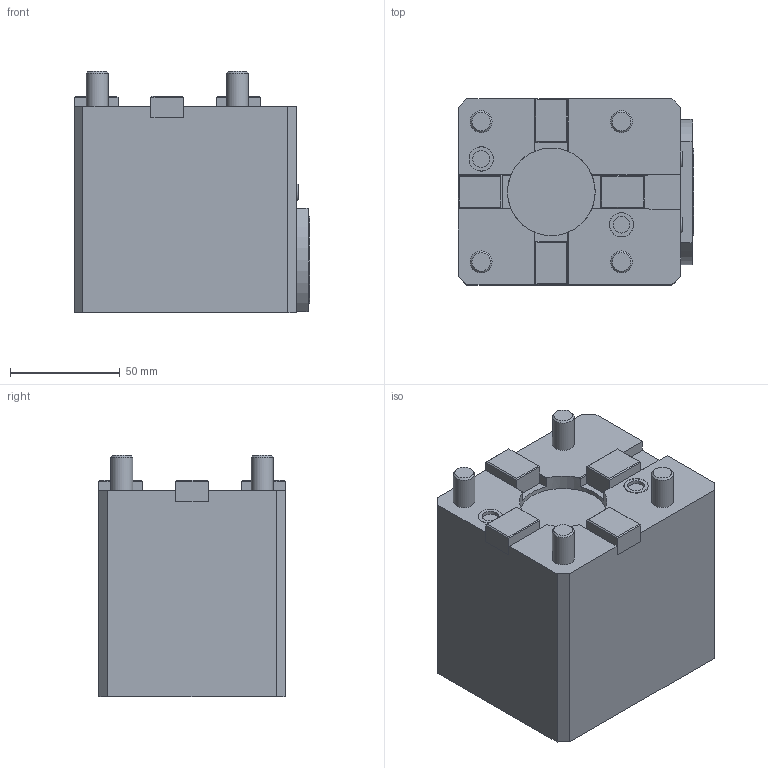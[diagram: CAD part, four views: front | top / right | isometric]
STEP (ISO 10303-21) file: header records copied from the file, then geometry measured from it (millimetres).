
FILE_DESCRIPTION(/* description */ (''),/* implementation_level */ '2;1');
FILE_NAME(/* name */ '198071',/* time_stamp */ '2022-01-04T10:34:12+01:00',/* author */ (''),/* organization */ (''),/* preprocessor_version */ 'ST-DEVELOPER v16.5',/* originating_system */ 'HiCAD 2017 2201.0 Build 268',/* authorisation */ '');
FILE_SCHEMA (('AUTOMOTIVE_DESIGN { 1 0 10303 214 1 1 1 1 }'));
Length unit declared in the file: millimetre
Products named in the file (37): Root; Leeres Teil; TRANSLATIONSTEIL_0; ROTATIONSTEIL_0; DIN 76-M12x1; ISO 4762-M 10x100-12.9_Zylinderkopfschraube ISO 4762-M 10x100-12.9; GEWINDE; 173501_Kantsealring 7.65x1.68_358*; ROTATIONSTEIL_0_210*; DIN 13-M12x1; KUGEL_0; DIN 13-M6; 114153_O-Ring 7x2_332*; Baugruppe Capto_Baugruppe; GEHÄUSE KOMBIHALTER_130*; SLEEVE_C4-STEHEND_120*
Assembly tree (36 placements, depth 6):
  Root
    Leeres Teil
      Leeres Teil
        Leeres Teil
          TRANSLATIONSTEIL_0
          TRANSLATIONSTEIL_0
          TRANSLATIONSTEIL_0
          TRANSLATIONSTEIL_0
        ROTATIONSTEIL_0
          DIN 76-M12x1
          DIN 76-M12x1
      Leeres Teil
        ISO 4762-M 10x100-12.9_Zylinderkopfschraube ISO 4762-M 10x100-12.9
          GEWINDE
        ISO 4762-M 10x100-12.9_Zylinderkopfschraube ISO 4762-M 10x100-12.9
          GEWINDE
        ISO 4762-M 10x100-12.9_Zylinderkopfschraube ISO 4762-M 10x100-12.9
          GEWINDE
        ISO 4762-M 10x100-12.9_Zylinderkopfschraube ISO 4762-M 10x100-12.9
          GEWINDE
      Leeres Teil
        173501_Kantsealring 7.65x1.68_358*
        173501_Kantsealring 7.65x1.68_358*
        ROTATIONSTEIL_0_210*
          DIN 13-M12x1
          KUGEL_0
            DIN 13-M6
          114153_O-Ring 7x2_332*
        ROTATIONSTEIL_0_210*
          DIN 13-M12x1
          KUGEL_0
            DIN 13-M6
          114153_O-Ring 7x2_332*
      Leeres Teil
      Baugruppe Capto_Baugruppe
        GEHÄUSE KOMBIHALTER_130*
        SLEEVE_C4-STEHEND_120*
Bounding box: 107.5 x 85 x 110 mm (x, y, z)
Volume: 807887.9 mm3; surface area: 89427.4 mm2
Topology: 33 solids, 33 shells, 352 faces, 832 edges, 536 vertices
Faces by surface type: plane 236, cylinder 61, cone 45, torus 6, sphere 4
Full cylindrical faces by diameter (mm): 5 x2, 6 x4, 7.65 x2, 8.5 x8, 9.92 x2, 10 x4, 11 x8, 11.01 x2, 11.1 x2, 12 x6, 16 x4, 18 x4, 31.6 x1, 40 x2, 40.03 x2
Entity records: 17097 total; most frequent: DIRECTION 1850, CARTESIAN_POINT 1612, PRESENTATION_STYLE_ASSIGNMENT 1421, COLOUR_RGB 1395, DRAUGHTING_PRE_DEFINED_CURVE_FONT 1392, CURVE_STYLE 1392, OVER_RIDING_STYLED_ITEM 1392, ORIENTED_EDGE 1392
